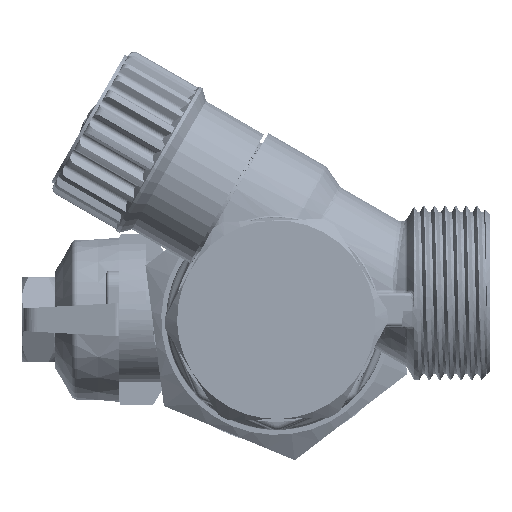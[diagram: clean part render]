
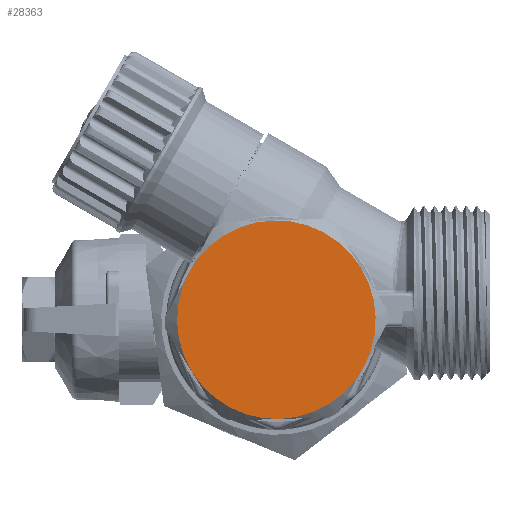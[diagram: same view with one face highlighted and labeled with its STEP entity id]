
A CAD part, left-side view. The second image highlights one B-rep face of the part: STEP entity #28363.
In plain terms, the highlighted planar face has unit normal (-1, 0, 0) as drawn and (0, 0, -1) by its records, which use the part's own axes.
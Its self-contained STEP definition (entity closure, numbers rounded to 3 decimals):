
#1331 = CIRCLE ( 'NONE', #4809, 14.875 ) ;
#3727 = VERTEX_POINT ( 'NONE', #17547 ) ;
#4809 = AXIS2_PLACEMENT_3D ( 'NONE', #15093, #85895, #34232 ) ;
#6449 = DIRECTION ( 'NONE',  ( 0., 0., -1. ) ) ;
#7379 = EDGE_CURVE ( 'NONE', #67726, #40051, #53047, .T. ) ;
#11021 = DIRECTION ( 'NONE',  ( 1., 0., 0. ) ) ;
#11947 = EDGE_CURVE ( 'NONE', #3727, #76294, #59437, .T. ) ;
#13605 = CIRCLE ( 'NONE', #106329, 14.875 ) ;
#15093 = CARTESIAN_POINT ( 'NONE',  ( 0., 0., 0. ) ) ;
#15980 = CARTESIAN_POINT ( 'NONE',  ( 14.875, 0., 0. ) ) ;
#17547 = CARTESIAN_POINT ( 'NONE',  ( -14.875, 0., 0. ) ) ;
#19986 = DIRECTION ( 'NONE',  ( 0., 0., 1. ) ) ;
#27118 = EDGE_LOOP ( 'NONE', ( #65463, #47528, #84314, #70926, #97474, #60372 ) ) ;
#28363 = ADVANCED_FACE ( 'NONE', ( #62741 ), #55164, .F. ) ;
#28418 = CIRCLE ( 'NONE', #65472, 14.875 ) ;
#30705 = AXIS2_PLACEMENT_3D ( 'NONE', #90525, #71444, #11021 ) ;
#34030 = DIRECTION ( 'NONE',  ( 0., 0., 1. ) ) ;
#34232 = DIRECTION ( 'NONE',  ( 1., 0., 0. ) ) ;
#35613 = EDGE_CURVE ( 'NONE', #3727, #93496, #1331, .T. ) ;
#37392 = DIRECTION ( 'NONE',  ( 0., 0., 1. ) ) ;
#37519 = AXIS2_PLACEMENT_3D ( 'NONE', #66389, #37392, #76195 ) ;
#39021 = AXIS2_PLACEMENT_3D ( 'NONE', #85983, #6449, #51227 ) ;
#40051 = VERTEX_POINT ( 'NONE', #15980 ) ;
#40244 = CARTESIAN_POINT ( 'NONE',  ( 0., 0., 0. ) ) ;
#44091 = CARTESIAN_POINT ( 'NONE',  ( -7.437, -12.882, 0. ) ) ;
#44174 = CARTESIAN_POINT ( 'NONE',  ( 7.437, 12.882, 0. ) ) ;
#45488 = DIRECTION ( 'NONE',  ( 0., 0., 1. ) ) ;
#46620 = DIRECTION ( 'NONE',  ( 1., 0., 0. ) ) ;
#47528 = ORIENTED_EDGE ( 'NONE', *, *, #7379, .F. ) ;
#51227 = DIRECTION ( 'NONE',  ( -1., 0., 0. ) ) ;
#53047 = CIRCLE ( 'NONE', #56748, 14.875 ) ;
#55153 = EDGE_CURVE ( 'NONE', #110132, #76294, #28418, .T. ) ;
#55164 = PLANE ( 'NONE',  #30705 ) ;
#55321 = CARTESIAN_POINT ( 'NONE',  ( 0., 0., 0. ) ) ;
#55395 = DIRECTION ( 'NONE',  ( 1., 0., 0. ) ) ;
#56748 = AXIS2_PLACEMENT_3D ( 'NONE', #55321, #45488, #46620 ) ;
#59437 = CIRCLE ( 'NONE', #39021, 14.875 ) ;
#59587 = CARTESIAN_POINT ( 'NONE',  ( 0., 0., 0. ) ) ;
#60372 = ORIENTED_EDGE ( 'NONE', *, *, #55153, .F. ) ;
#62741 = FACE_OUTER_BOUND ( 'NONE', #27118, .T. ) ;
#65463 = ORIENTED_EDGE ( 'NONE', *, *, #89602, .F. ) ;
#65472 = AXIS2_PLACEMENT_3D ( 'NONE', #40244, #19986, #55395 ) ;
#66389 = CARTESIAN_POINT ( 'NONE',  ( 0., 0., 0. ) ) ;
#67726 = VERTEX_POINT ( 'NONE', #88628 ) ;
#70363 = EDGE_CURVE ( 'NONE', #93496, #67726, #91236, .T. ) ;
#70926 = ORIENTED_EDGE ( 'NONE', *, *, #35613, .F. ) ;
#71444 = DIRECTION ( 'NONE',  ( 0., 0., 1. ) ) ;
#76195 = DIRECTION ( 'NONE',  ( 1., 0., 0. ) ) ;
#76294 = VERTEX_POINT ( 'NONE', #90969 ) ;
#84314 = ORIENTED_EDGE ( 'NONE', *, *, #70363, .F. ) ;
#84537 = DIRECTION ( 'NONE',  ( 1., 0., 0. ) ) ;
#85895 = DIRECTION ( 'NONE',  ( 0., 0., 1. ) ) ;
#85983 = CARTESIAN_POINT ( 'NONE',  ( 0., 0., 0. ) ) ;
#88628 = CARTESIAN_POINT ( 'NONE',  ( 7.438, -12.882, 0. ) ) ;
#89602 = EDGE_CURVE ( 'NONE', #40051, #110132, #13605, .T. ) ;
#90525 = CARTESIAN_POINT ( 'NONE',  ( 0., 0., 0. ) ) ;
#90969 = CARTESIAN_POINT ( 'NONE',  ( -7.438, 12.882, 0. ) ) ;
#91236 = CIRCLE ( 'NONE', #37519, 14.875 ) ;
#93496 = VERTEX_POINT ( 'NONE', #44091 ) ;
#97474 = ORIENTED_EDGE ( 'NONE', *, *, #11947, .T. ) ;
#106329 = AXIS2_PLACEMENT_3D ( 'NONE', #59587, #34030, #84537 ) ;
#110132 = VERTEX_POINT ( 'NONE', #44174 ) ;
